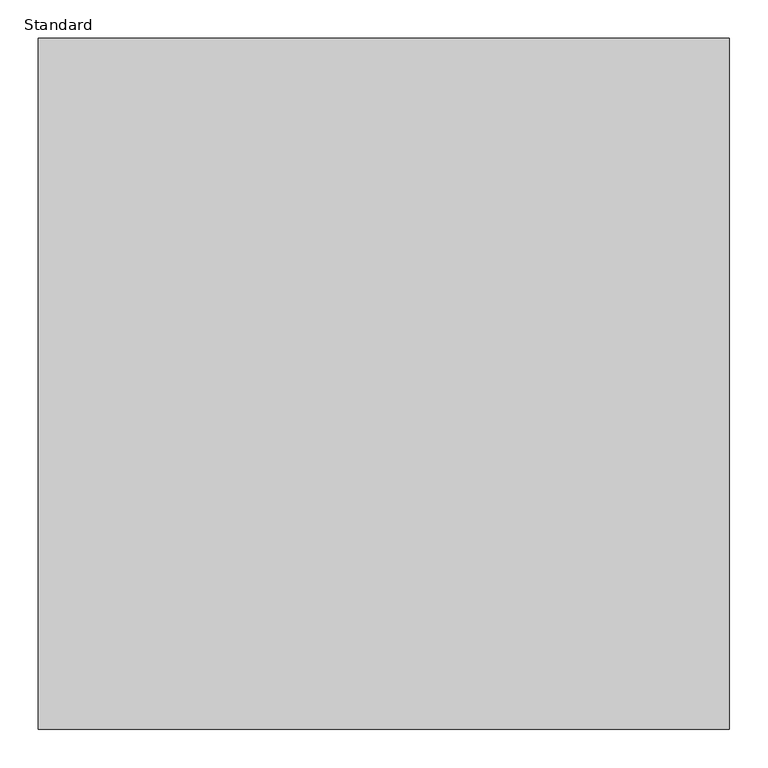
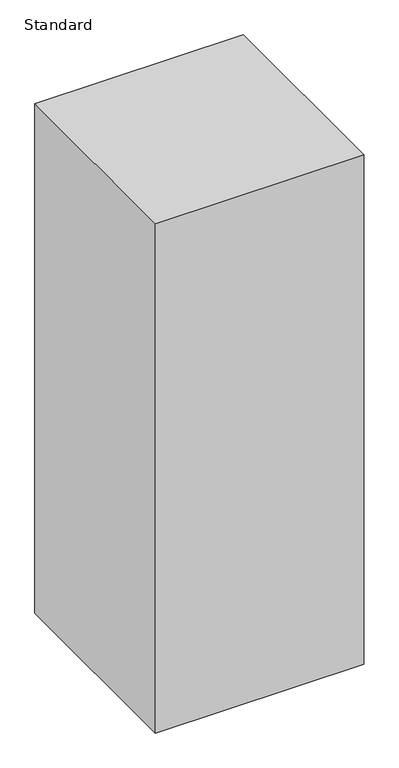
"""IFC4 building model written with IfcOpenShell, lengths in millimetres: proxy geometry, Clearance-Door-Circulation-AS1428.1-2021-Duracube : Standard."""

from ifc_helpers import new_model, si_unit, origin, origin_with_axes, place, context, project, spatial, polyline, outline, extrude, source, transform, mapped, element, save


def standard_8dc82752(model_context):
    return source(origin(), model_context, "Body", "SweptSolid", [
        extrude(outline(polyline([(450.0, -450.0), (-450.0, -450.0), (-450.0, 450.0), (450.0, 450.0), (450.0, -450.0)])), origin_with_axes(), (0.0, 0.0, 1.0), 2324.0),
    ])


if __name__ == "__main__":
    model = new_model("IFC4")
    model_context = context("Model", 3, world=origin())
    ifc_project = project(units=[si_unit("LENGTHUNIT", "METRE", prefix="MILLI")], contexts=[model_context])
    site = spatial("IfcSite", under=ifc_project)
    building = spatial("IfcBuilding", under=site)
    placement = place(None, origin())
    standard_shape = standard_8dc82752(model_context)
    element("IfcBuildingElementProxy", 1, Name="Clearance-Door-Circulation-AS1428.1-2021-Duracube : Standard", ObjectType="Clearance-Door-Circulation-AS1428.1-2021-Duracube : Standard", at=placement, inside=building, context=model_context, shape_type="MappedRepresentation", body=[
        mapped(standard_shape, transform((0.0, 0.0, 0.0), x_axis=(1.0, 0.0, 0.0), y_axis=(0.0, 1.0, 0.0), z_axis=(0.0, 0.0, 1.0))),
    ])
    save(model, "model.ifc")
